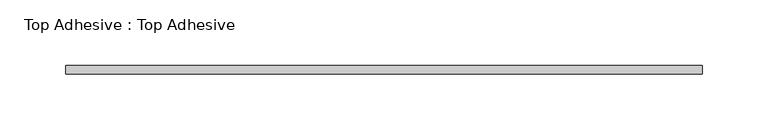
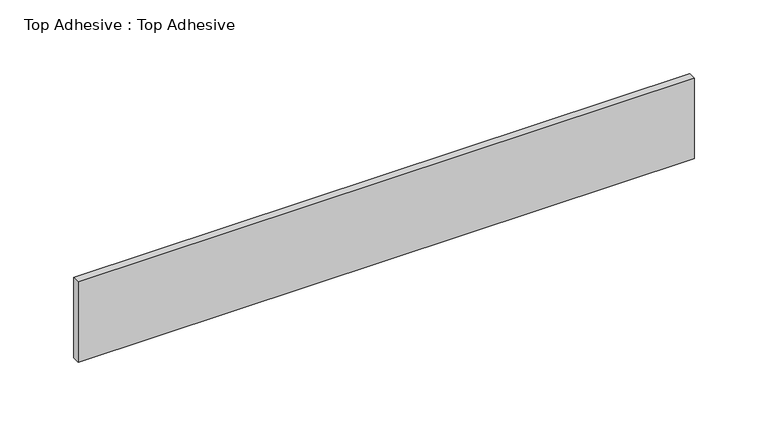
"""IFC4 building model written with IfcOpenShell, lengths in millimetres: proxy geometry, Top Adhesive : Top Adhesive."""

from ifc_helpers import new_model, si_unit, frame, origin, place, context, project, spatial, polyline, outline, extrude, source, transform, mapped, element, save


def top_adhesive_top_adhesive_610fdb37(model_context):
    return source(origin(), model_context, "Body", "SweptSolid", [
        extrude(outline(polyline([(26615.3789273, 630.8066297), (26615.3789273, 637.1566297), (27098.7726773, 637.1566297), (27098.7726773, 630.8066297), (26615.3789273, 630.8066297)])), frame((0.0, 0.0, -85.725), z_axis=(0.0, 0.0, 1.0), x_axis=(1.0, 0.0, 0.0)), (0.0, 0.0, 1.0), 66.675),
    ])


if __name__ == "__main__":
    model = new_model("IFC4")
    model_context = context("Model", 3, world=origin())
    ifc_project = project(units=[si_unit("LENGTHUNIT", "METRE", prefix="MILLI")], contexts=[model_context])
    site = spatial("IfcSite", under=ifc_project)
    building = spatial("IfcBuilding", under=site)
    placement = place(None, origin())
    top_adhesive_top_adhesive_shape = top_adhesive_top_adhesive_610fdb37(model_context)
    element("IfcBuildingElementProxy", 1, Name="Top Adhesive : Top Adhesive", ObjectType="Top Adhesive : Top Adhesive", at=placement, inside=building, context=model_context, shape_type="MappedRepresentation", body=[
        mapped(top_adhesive_top_adhesive_shape, transform((0.0, 0.0, 0.0), x_axis=(1.0, 0.0, 0.0), y_axis=(0.0, 1.0, 0.0), z_axis=(0.0, 0.0, 1.0))),
    ])
    save(model, "model.ifc")
